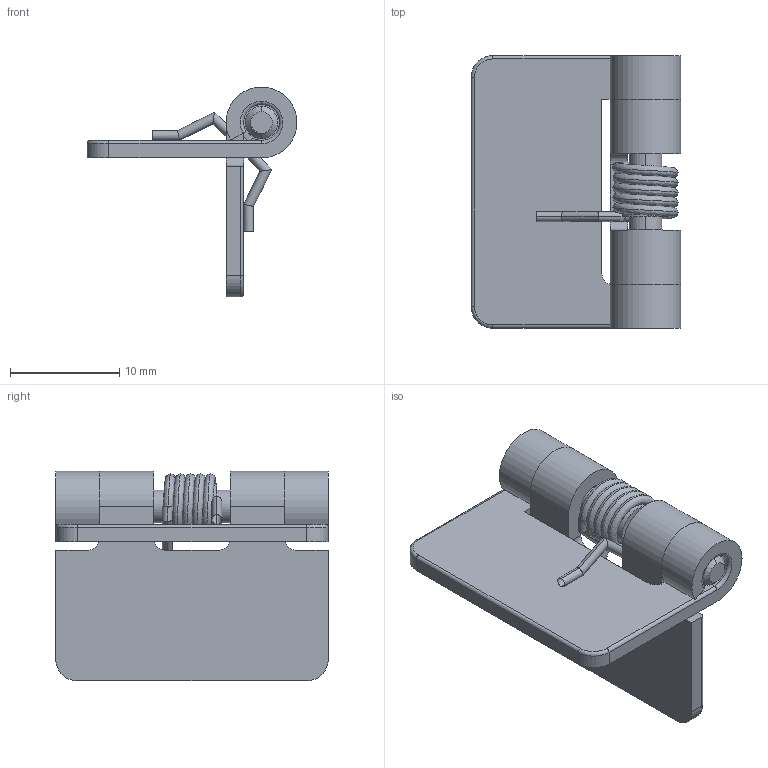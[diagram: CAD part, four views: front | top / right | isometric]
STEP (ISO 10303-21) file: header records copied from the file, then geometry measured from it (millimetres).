
FILE_DESCRIPTION (( 'STEP AP203' ), '1' );
FILE_NAME ('DEH-40-2.STEP', '2013-08-15T04:34:28', ( '中村　妙子' ), ( 'ＮＴ設計' ), 'SwSTEP 2.0', 'SolidWorks 2002296', '' );
FILE_SCHEMA (( 'CONFIG_CONTROL_DESIGN' ));
Length unit declared in the file: millimetre
Products named in the file (5): DEH-40-2; DEH-40-2-1_蹬怮椔; DEH-40-2-2_蹬怮椔; DEH-40-2-3_蹬怮椔; DEH-40-2-4_蹬怮椔
Assembly tree (4 placements, depth 2):
  DEH-40-2
    DEH-40-2-2_蹬怮椔
    DEH-40-2-1_蹬怮椔
    DEH-40-2-3_蹬怮椔
    DEH-40-2-4_蹬怮椔
Bounding box: 19.25 x 25 x 19.25 mm (x, y, z)
Volume: 239.2 mm3; surface area: 2805.6 mm2
Topology: 3 solids, 7 shells, 87 faces, 205 edges, 128 vertices
Faces by surface type: cylinder 43, plane 30, torus 8, cone 4, bspline 2
Entity records: 4214 total; most frequent: CARTESIAN_POINT 1694, DIRECTION 453, ORIENTED_EDGE 402, EDGE_CURVE 205, AXIS2_PLACEMENT_3D 173, VERTEX_POINT 128, LINE 107, VECTOR 107
